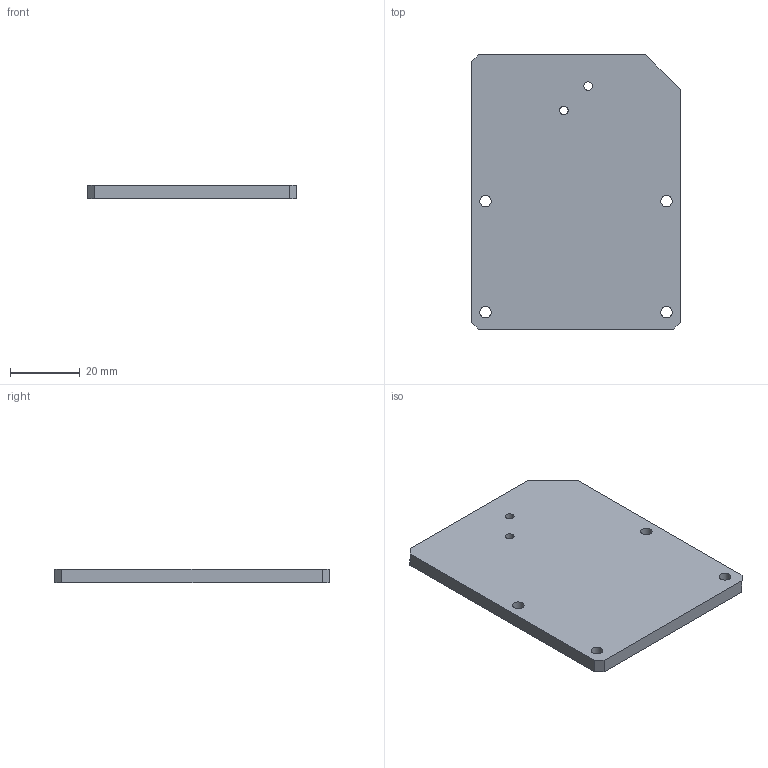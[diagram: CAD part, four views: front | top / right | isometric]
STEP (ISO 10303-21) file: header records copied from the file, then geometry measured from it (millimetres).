
FILE_DESCRIPTION(/* description */ (''),/* implementation_level */ '2;1');
FILE_NAME(/* name */ 'C:/#Projekte/Linear-Motor/STEP/carriage_top_2.step',/* time_stamp */ '2019-01-06T11:24:35+01:00',/* author */ (''),/* organization */ (''),/* preprocessor_version */ 'ST-DEVELOPER v17.2',/* originating_system */ 'Autodesk Translation Framework v7.6.0.251',/* authorisation */ '');
FILE_SCHEMA (('AUTOMOTIVE_DESIGN { 1 0 10303 214 3 1 1 }'));
Length unit declared in the file: millimetre
Products named in the file (1): Fusion-Komponente
Bounding box: 60 x 78.8 x 4 mm (x, y, z)
Volume: 18511.9 mm3; surface area: 10557.6 mm2
Topology: 1 solids, 1 shells, 16 faces, 42 edges, 28 vertices
Faces by surface type: plane 10, cylinder 6
Full cylindrical faces by diameter (mm): 2.5 x2, 3.3 x4
Entity records: 562 total; most frequent: DIRECTION 88, CARTESIAN_POINT 87, ORIENTED_EDGE 84, EDGE_CURVE 42, LINE 30, VECTOR 30, AXIS2_PLACEMENT_3D 29, EDGE_LOOP 28
